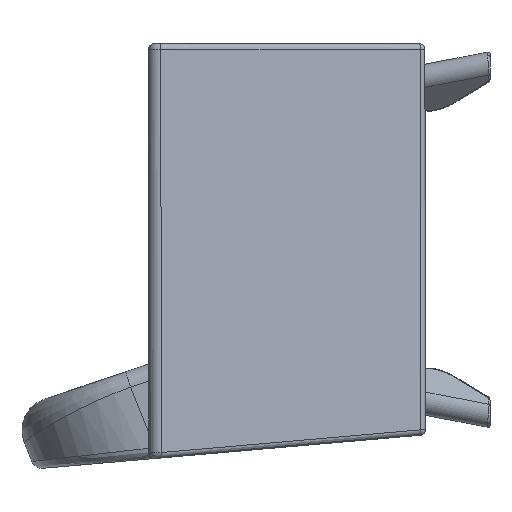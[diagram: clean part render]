
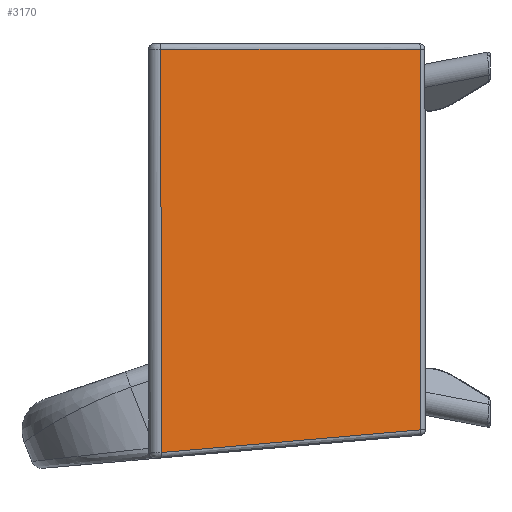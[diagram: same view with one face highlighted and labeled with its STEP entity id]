
A CAD part, left-side view. The second image highlights one B-rep face of the part: STEP entity #3170.
In plain terms, the highlighted free-form (B-spline) face has degree [3, 1] with [17, 2] control points.
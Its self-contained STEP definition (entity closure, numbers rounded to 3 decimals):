
#13=B_SPLINE_SURFACE_WITH_KNOTS('',3,1,((#7419,#7420),(#7421,#7422),(#7423,
#7424),(#7425,#7426),(#7427,#7428),(#7429,#7430),(#7431,#7432),(#7433,#7434),
(#7435,#7436),(#7437,#7438),(#7439,#7440),(#7441,#7442),(#7443,#7444),(#7445,
#7446),(#7447,#7448),(#7449,#7450),(#7451,#7452)),.UNSPECIFIED.,.F.,.F.,
 .F.,(4,1,1,1,2,1,1,1,2,1,1,1,4),(2,2),(0.,0.004,0.008,
0.013,0.017,0.251,0.486,
0.721,0.955,0.966,0.978,
0.989,1.),(0.,1.),.UNSPECIFIED.);
#112=B_SPLINE_CURVE_WITH_KNOTS('',3,(#5918,#5919,#5920,#5921,#5922,#5923,
#5924),.UNSPECIFIED.,.F.,.F.,(4,3,4),(0.,0.893,
1.),.UNSPECIFIED.);
#114=B_SPLINE_CURVE_WITH_KNOTS('',3,(#5977,#5978,#5979,#5980,#5981,#5982,
#5983,#5984,#5985,#5986,#5987,#5988,#5989),.UNSPECIFIED.,.F.,.F.,(4,3,3,
3,4),(0.,0.246,0.493,0.639,1.),
 .UNSPECIFIED.);
#329=FACE_OUTER_BOUND('',#552,.T.);
#552=EDGE_LOOP('',(#2272,#2273,#2274,#2275));
#937=LINE('',#7412,#1128);
#938=LINE('',#7414,#1129);
#1128=VECTOR('',#3929,10.);
#1129=VECTOR('',#3932,10.);
#1358=VERTEX_POINT('',#5651);
#1362=VERTEX_POINT('',#5905);
#1368=VERTEX_POINT('',#5940);
#1369=VERTEX_POINT('',#5961);
#1676=EDGE_CURVE('',#1362,#1358,#112,.T.);
#1688=EDGE_CURVE('',#1369,#1368,#114,.T.);
#1711=EDGE_CURVE('',#1358,#1369,#937,.T.);
#1712=EDGE_CURVE('',#1368,#1362,#938,.T.);
#2272=ORIENTED_EDGE('',*,*,#1711,.T.);
#2273=ORIENTED_EDGE('',*,*,#1688,.T.);
#2274=ORIENTED_EDGE('',*,*,#1712,.T.);
#2275=ORIENTED_EDGE('',*,*,#1676,.T.);
#3170=ADVANCED_FACE('',(#329),#13,.T.);
#3929=DIRECTION('',(0.,-0.001,-1.));
#3932=DIRECTION('',(0.,0.001,1.));
#5651=CARTESIAN_POINT('',(-418.096,652.061,334.165));
#5905=CARTESIAN_POINT('',(-347.242,173.524,334.165));
#5918=CARTESIAN_POINT('Ctrl Pts',(-347.242,173.524,334.165));
#5919=CARTESIAN_POINT('Ctrl Pts',(-367.709,311.756,334.165));
#5920=CARTESIAN_POINT('Ctrl Pts',(-388.725,453.694,334.165));
#5921=CARTESIAN_POINT('Ctrl Pts',(-410.298,599.389,334.165));
#5922=CARTESIAN_POINT('Ctrl Pts',(-412.889,616.892,334.165));
#5923=CARTESIAN_POINT('Ctrl Pts',(-415.489,634.45,334.165));
#5924=CARTESIAN_POINT('Ctrl Pts',(-418.096,652.061,334.165));
#5940=CARTESIAN_POINT('',(-347.251,172.75,-367.839));
#5961=CARTESIAN_POINT('',(-418.086,651.177,-409.696));
#5977=CARTESIAN_POINT('Ctrl Pts',(-418.086,651.177,-409.696));
#5978=CARTESIAN_POINT('Ctrl Pts',(-412.098,610.743,-406.159));
#5979=CARTESIAN_POINT('Ctrl Pts',(-406.153,570.59,-402.646));
#5980=CARTESIAN_POINT('Ctrl Pts',(-400.25,530.721,-399.158));
#5981=CARTESIAN_POINT('Ctrl Pts',(-394.348,490.851,-395.67));
#5982=CARTESIAN_POINT('Ctrl Pts',(-388.487,451.265,-392.206));
#5983=CARTESIAN_POINT('Ctrl Pts',(-382.668,411.964,-388.768));
#5984=CARTESIAN_POINT('Ctrl Pts',(-379.2,388.537,-386.718));
#5985=CARTESIAN_POINT('Ctrl Pts',(-375.746,365.21,-384.677));
#5986=CARTESIAN_POINT('Ctrl Pts',(-372.307,341.985,-382.646));
#5987=CARTESIAN_POINT('Ctrl Pts',(-363.865,284.962,-377.657));
#5988=CARTESIAN_POINT('Ctrl Pts',(-355.513,228.549,-372.721));
#5989=CARTESIAN_POINT('Ctrl Pts',(-347.251,172.75,-367.839));
#7412=CARTESIAN_POINT('',(-418.096,652.061,334.165));
#7414=CARTESIAN_POINT('',(-347.251,172.75,-367.839));
#7419=CARTESIAN_POINT('Ctrl Pts',(-345.978,165.,344.163));
#7420=CARTESIAN_POINT('Ctrl Pts',(-345.988,164.204,-377.004));
#7421=CARTESIAN_POINT('Ctrl Pts',(-346.083,165.71,344.163));
#7422=CARTESIAN_POINT('Ctrl Pts',(-346.092,164.911,-377.065));
#7423=CARTESIAN_POINT('Ctrl Pts',(-346.294,167.133,344.163));
#7424=CARTESIAN_POINT('Ctrl Pts',(-346.301,166.323,-377.189));
#7425=CARTESIAN_POINT('Ctrl Pts',(-346.61,169.27,344.163));
#7426=CARTESIAN_POINT('Ctrl Pts',(-346.614,168.437,-377.374));
#7427=CARTESIAN_POINT('Ctrl Pts',(-346.927,171.406,344.163));
#7428=CARTESIAN_POINT('Ctrl Pts',(-346.928,170.552,-377.559));
#7429=CARTESIAN_POINT('Ctrl Pts',(-347.137,172.827,344.163));
#7430=CARTESIAN_POINT('Ctrl Pts',(-347.137,171.966,-377.683));
#7431=CARTESIAN_POINT('Ctrl Pts',(-353.147,213.416,344.163));
#7432=CARTESIAN_POINT('Ctrl Pts',(-353.146,212.553,-381.233));
#7433=CARTESIAN_POINT('Ctrl Pts',(-364.956,293.173,344.163));
#7434=CARTESIAN_POINT('Ctrl Pts',(-364.955,292.315,-388.212));
#7435=CARTESIAN_POINT('Ctrl Pts',(-382.669,412.803,344.163));
#7436=CARTESIAN_POINT('Ctrl Pts',(-382.67,411.963,-398.68));
#7437=CARTESIAN_POINT('Ctrl Pts',(-400.382,532.433,344.163));
#7438=CARTESIAN_POINT('Ctrl Pts',(-400.384,531.61,-409.147));
#7439=CARTESIAN_POINT('Ctrl Pts',(-412.192,612.192,344.163));
#7440=CARTESIAN_POINT('Ctrl Pts',(-412.193,611.371,-416.125));
#7441=CARTESIAN_POINT('Ctrl Pts',(-418.379,653.981,344.163));
#7442=CARTESIAN_POINT('Ctrl Pts',(-418.381,653.155,-419.781));
#7443=CARTESIAN_POINT('Ctrl Pts',(-418.944,657.798,344.163));
#7444=CARTESIAN_POINT('Ctrl Pts',(-418.948,656.967,-420.115));
#7445=CARTESIAN_POINT('Ctrl Pts',(-419.793,663.531,344.163));
#7446=CARTESIAN_POINT('Ctrl Pts',(-419.797,662.678,-420.614));
#7447=CARTESIAN_POINT('Ctrl Pts',(-420.642,669.266,344.163));
#7448=CARTESIAN_POINT('Ctrl Pts',(-420.646,668.385,-421.114));
#7449=CARTESIAN_POINT('Ctrl Pts',(-421.209,673.091,344.163));
#7450=CARTESIAN_POINT('Ctrl Pts',(-421.212,672.19,-421.447));
#7451=CARTESIAN_POINT('Ctrl Pts',(-421.492,675.002,344.163));
#7452=CARTESIAN_POINT('Ctrl Pts',(-421.495,674.093,-421.613));
